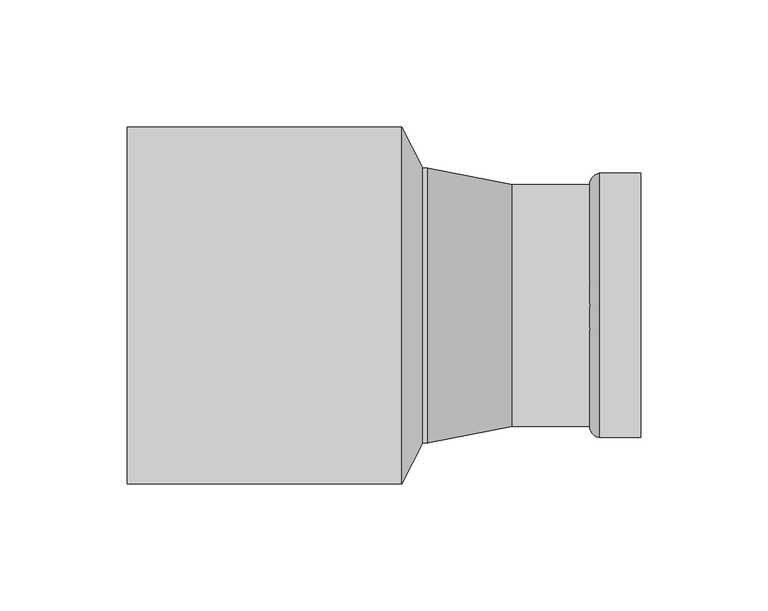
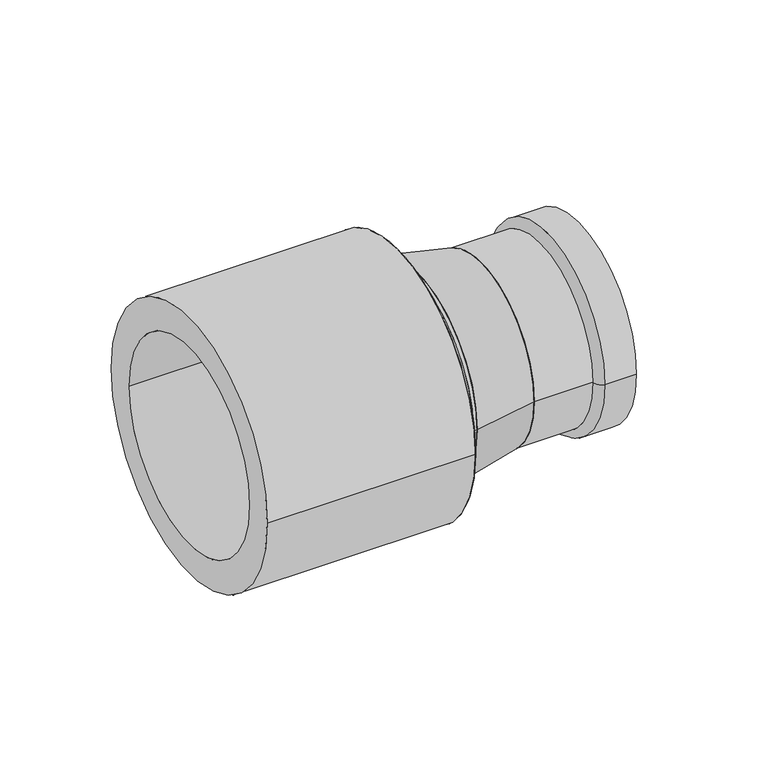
"""IFC4 building model written with IfcOpenShell, lengths in millimetres: pipe fitting geometry, VALTEC_VTi.905.I_Вставка переходная_Нержавеющая сталь : VTi.905.I."""

from ifc_helpers import new_model, si_unit, point, frame, origin, origin_2d, place, context, project, spatial, polyline, circle_curve, ellipse_curve, trimmed, segment, composite_curve, outline, extrude, source, transform, mapped, element, save
from ifc_brep_helpers import plane_surface, cylinder_surface, revolved_surface, advanced_brep


def pipe_fitting_ca093a82(model_context):
    return source(origin(), model_context, "Body", "SolidModel", [
        advanced_brep(
        [(101.0, -44.45, 0.0), (101.0, -52.0, 0.0), (101.0, 52.0, 0.0), (101.0, 44.45, 0.0), (50.5, -44.45, 0.0), (50.5, 44.45, 0.0), (50.5, -47.5, 0.0), (50.5, 47.5, 0.0), (80.89, -47.5, 0.0), (80.89, 47.5, 0.0), (84.6, -52.0, 0.0), (84.6, 52.0, 0.0)],
        [
            (0, 1),
            (1, 2, circle_curve(frame((101.0, 0.0, 0.0), z_axis=(1.0, 0.0, 0.0), x_axis=(0.0, 1.0, 0.0)), 52.0)),
            (2, 3),
            (3, 0, circle_curve(frame((101.0, 0.0, 0.0), z_axis=(-1.0, 0.0, 0.0), x_axis=(0.0, 1.0, 0.0)), 44.45)),
            (2, 1, circle_curve(frame((101.0, 0.0, 0.0), z_axis=(1.0, 0.0, 0.0), x_axis=(0.0, 1.0, 0.0)), 52.0)),
            (0, 3, circle_curve(frame((101.0, 0.0, 0.0), z_axis=(-1.0, 0.0, 0.0), x_axis=(0.0, 1.0, 0.0)), 44.45)),
            (4, 0),
            (3, 5),
            (5, 4, circle_curve(frame((50.5, 0.0, 0.0), z_axis=(-1.0, 0.0, 0.0), x_axis=(0.0, 1.0, 0.0)), 44.45)),
            (4, 5, circle_curve(frame((50.5, 0.0, 0.0), z_axis=(-1.0, 0.0, 0.0), x_axis=(0.0, 1.0, 0.0)), 44.45)),
            (6, 4),
            (5, 7),
            (7, 6, circle_curve(frame((50.5, 0.0, 0.0), z_axis=(-1.0, 0.0, 0.0), x_axis=(0.0, 1.0, 0.0)), 47.5)),
            (6, 7, circle_curve(frame((50.5, 0.0, 0.0), z_axis=(-1.0, 0.0, 0.0), x_axis=(0.0, 1.0, 0.0)), 47.5)),
            (8, 6),
            (7, 9),
            (9, 8, circle_curve(frame((80.89, 0.0, 0.0), z_axis=(-1.0, 0.0, 0.0), x_axis=(0.0, 1.0, 0.0)), 47.5)),
            (8, 9, circle_curve(frame((80.89, 0.0, 0.0), z_axis=(-1.0, 0.0, 0.0), x_axis=(0.0, 1.0, 0.0)), 47.5)),
            (10, 8, circle_curve(frame((85.337843, -47.612345, 0.0), z_axis=(0.0, 0.0, -1.0), x_axis=(-1.0, 0.0, 0.0)), 4.4492616)),
            (9, 11, circle_curve(frame((85.337843, 47.612345, 0.0), z_axis=(0.0, 0.0, -1.0), x_axis=(-1.0, 0.0, 0.0)), 4.4492616)),
            (11, 10, circle_curve(frame((84.6, 0.0, 0.0), z_axis=(-1.0, 0.0, 0.0), x_axis=(0.0, 1.0, 0.0)), 52.0)),
            (10, 11, circle_curve(frame((84.6, 0.0, 0.0), z_axis=(-1.0, 0.0, 0.0), x_axis=(0.0, 1.0, 0.0)), 52.0)),
            (1, 10),
            (11, 2),
        ],
        [
            plane_surface(frame((101.0, 0.0, 0.0), z_axis=(1.0, 0.0, 0.0), x_axis=(0.0, 1.0, 0.0))),
            revolved_surface(polyline([(101.0, 44.45, 0.0), (50.5, 44.45, 0.0)]), (71.2906392, 0.0, 0.0), (1.0, 0.0, 0.0)),
            plane_surface(frame((50.5, 0.0, 0.0), z_axis=(-1.0, 0.0, 0.0), x_axis=(0.0, 1.0, 0.0))),
            cylinder_surface(frame((71.2906392, 0.0, 0.0), z_axis=(1.0, 0.0, 0.0), x_axis=(0.0, 1.0, 0.0)), 47.5),
            revolved_surface(trimmed(ellipse_curve(frame((85.337843, 47.612345, 0.0), z_axis=(0.0, 0.0, -1.0), x_axis=(-1.0, 0.0, 0.0)), 4.4492616, 4.4492616), [point((80.89, 47.5, 0.0))], [point((84.6, 52.0, 0.0))], True, "CARTESIAN"), (71.2906392, 0.0, 0.0), (1.0, 0.0, 0.0)),
            cylinder_surface(frame((71.2906392, 0.0, 0.0), z_axis=(1.0, 0.0, 0.0), x_axis=(0.0, 1.0, 0.0)), 52.0),
        ],
        [
            (0, [[1, 2, 3, 4]]),
            (0, [[-3, 5, -1, 6]]),
            (1, [[7, -4, 8, 9]]),
            (1, [[-8, -6, -7, 10]]),
            (2, [[11, -9, 12, 13]]),
            (2, [[-12, -10, -11, 14]]),
            (3, [[15, -13, 16, 17]]),
            (3, [[-16, -14, -15, 18]]),
            (4, [[19, -17, 20, 21]]),
            (4, [[-20, -18, -19, 22]]),
            (5, [[23, -21, 24, -2]]),
            (5, [[-24, -22, -23, -5]]),
        ],
    ),
        advanced_brep(
        [(17.2, -54.0, 0.0), (17.2, 54.0, 0.0), (50.5, -47.5, 0.0), (50.5, 47.5, 0.0)],
        [
            (0, 1, circle_curve(frame((17.2, 0.0, 0.0), z_axis=(-1.0, 0.0, 0.0), x_axis=(0.0, -1.0, 0.0)), 54.0)),
            (1, 0, circle_curve(frame((17.2, 0.0, 0.0), z_axis=(-1.0, 0.0, 0.0), x_axis=(0.0, 1.0, 0.0)), 54.0)),
            (2, 3, circle_curve(frame((50.5, 0.0, 0.0), z_axis=(1.0, 0.0, 0.0), x_axis=(0.0, 1.0, 0.0)), 47.5)),
            (3, 2, circle_curve(frame((50.5, 0.0, 0.0), z_axis=(1.0, 0.0, 0.0), x_axis=(0.0, -1.0, 0.0)), 47.5)),
            (2, 0),
            (1, 3),
        ],
        [
            plane_surface(frame((17.2, 0.0, 0.0), z_axis=(-1.0, 0.0, 0.0), x_axis=(0.0, 0.0, 1.0))),
            plane_surface(frame((50.5, 0.0, 0.0), z_axis=(1.0, 0.0, 0.0), x_axis=(0.0, 0.0, 1.0))),
            revolved_surface(polyline([(50.5, -47.499999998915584, 0.0), (17.19999999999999, -54.0, 0.0)]), (293.8461538, 0.0, 0.0), (-1.0, 0.0, 0.0)),
            revolved_surface(polyline([(50.5, 47.499999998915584, 0.0), (17.19999999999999, 54.0, 0.0)]), (293.8461538, 0.0, 0.0), (-1.0, 0.0, 0.0)),
        ],
        [
            (0, [[1, 2]]),
            (1, [[3, 4]]),
            (2, [[-3, 5, -2, 6]]),
            (3, [[-4, -6, -1, -5]]),
        ],
    ),
        extrude(outline(composite_curve([segment(trimmed(circle_curve(origin_2d(), 54.0), [point((-54.0, 0.0))], [point((54.0, 0.0))], False, "CARTESIAN"), True, "CONTINUOUS"), segment(trimmed(circle_curve(origin_2d(), 54.0), [point((54.0, 0.0))], [point((-54.0, 0.0))], False, "CARTESIAN"), True, "CONTINUOUS")], self_intersect=False)), frame((15.2, 0.0, 0.0), z_axis=(1.0, 0.0, 0.0), x_axis=(0.0, 1.0, 0.0)), (0.0, 0.0, 1.0), 2.0),
        advanced_brep(
        [(15.2, -54.0, 0.0), (15.2, 54.0, 0.0), (7.0, -70.2, 0.0), (7.0, 70.2, 0.0)],
        [
            (0, 1, circle_curve(frame((15.2, 0.0, 0.0), z_axis=(1.0, 0.0, 0.0), x_axis=(0.0, -1.0, 0.0)), 54.0)),
            (1, 0, circle_curve(frame((15.2, 0.0, 0.0), z_axis=(1.0, 0.0, 0.0), x_axis=(0.0, 1.0, 0.0)), 54.0)),
            (2, 3, circle_curve(frame((7.0, 0.0, 0.0), z_axis=(-1.0, 0.0, 0.0), x_axis=(0.0, 1.0, 0.0)), 70.2)),
            (3, 2, circle_curve(frame((7.0, 0.0, 0.0), z_axis=(-1.0, 0.0, 0.0), x_axis=(0.0, -1.0, 0.0)), 70.2)),
            (3, 1),
            (0, 2),
        ],
        [
            plane_surface(frame((15.2, 0.0, 0.0), z_axis=(1.0, 0.0, 0.0), x_axis=(0.0, 0.0, -1.0))),
            plane_surface(frame((7.0, 0.0, 0.0), z_axis=(-1.0, 0.0, 0.0), x_axis=(0.0, 0.0, -1.0))),
            revolved_surface(polyline([(15.2, -53.999999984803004, 0.0), (7.0, -70.2, 0.0)]), (42.5333333, 0.0, 0.0), (-1.0, 0.0, 0.0)),
            revolved_surface(polyline([(15.2, 53.999999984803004, 0.0), (7.0, 70.2, 0.0)]), (42.5333333, 0.0, 0.0), (-1.0, 0.0, 0.0)),
        ],
        [
            (0, [[1, 2]]),
            (1, [[3, 4]]),
            (2, [[-4, 5, -1, 6]]),
            (3, [[-3, -6, -2, -5]]),
        ],
    ),
        extrude(outline(composite_curve([segment(trimmed(circle_curve(origin_2d(), 70.2), [point((-70.2, 0.0))], [point((70.2, 0.0))], False, "CARTESIAN"), True, "CONTINUOUS"), segment(trimmed(circle_curve(origin_2d(), 70.2), [point((70.2, 0.0))], [point((-70.2, 0.0))], False, "CARTESIAN"), True, "CONTINUOUS")], self_intersect=False), holes=[composite_curve([segment(trimmed(circle_curve(origin_2d(), 54.0), [point((-54.0, 0.0))], [point((54.0, 0.0))], True, "CARTESIAN"), True, "CONTINUOUS"), segment(trimmed(circle_curve(origin_2d(), 54.0), [point((54.0, 0.0))], [point((-54.0, 0.0))], True, "CARTESIAN"), True, "CONTINUOUS")], self_intersect=False)]), frame((-101.0, 0.0, 0.0), z_axis=(1.0, 0.0, 0.0), x_axis=(0.0, 1.0, 0.0)), (0.0, 0.0, 1.0), 108.0),
    ])


if __name__ == "__main__":
    model = new_model("IFC4")
    model_context = context("Model", 3, world=origin())
    ifc_project = project(units=[si_unit("LENGTHUNIT", "METRE", prefix="MILLI")], contexts=[model_context])
    site = spatial("IfcSite", under=ifc_project)
    building = spatial("IfcBuilding", under=site)
    placement = place(None, origin())
    pipe_fitting_shape = pipe_fitting_ca093a82(model_context)
    element("IfcPipeFitting", 1, ObjectType="VALTEC_VTi.905.I_Вставка переходная_Нержавеющая сталь : VTi.905.I", at=placement, inside=building, context=model_context, shape_type="MappedRepresentation", body=[
        mapped(pipe_fitting_shape, transform((0.0, 0.0, 0.0), x_axis=(1.0, 0.0, 0.0), y_axis=(0.0, 1.0, 0.0), z_axis=(0.0, 0.0, 1.0))),
    ])
    save(model, "model.ifc")
